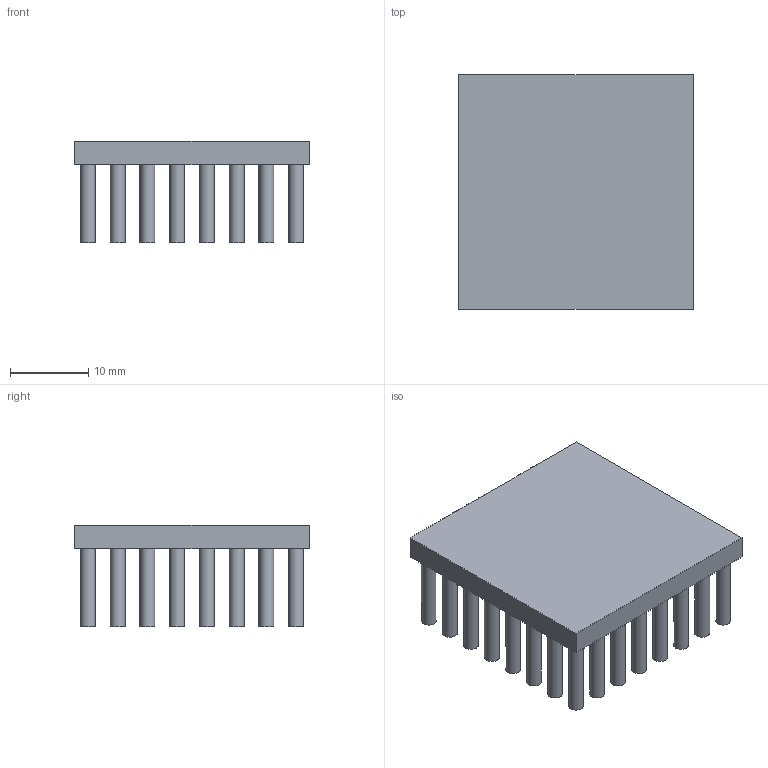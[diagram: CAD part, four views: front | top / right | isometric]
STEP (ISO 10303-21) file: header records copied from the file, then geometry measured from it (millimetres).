
FILE_DESCRIPTION(/* description */ (''),/* implementation_level */ '2;1');
FILE_NAME(/* name */ 'PB3030-B3-H13-P64.stp',/* time_stamp */ '2013-12-30T13:48:07+08:00',/* author */ (''),/* organization */ (''),/* preprocessor_version */ 'ST-DEVELOPER v14',/* originating_system */ 'SIEMENS PLM Software NX 8.0',/* authorisation */ '');
FILE_SCHEMA (('CONFIG_CONTROL_DESIGN'));
Length unit declared in the file: millimetre
Products named in the file (1): PB3030-P64
Bounding box: 30 x 30 x 13 mm (x, y, z)
Volume: 4514.6 mm3; surface area: 5980.2 mm2
Topology: 1 solids, 1 shells, 134 faces, 204 edges, 136 vertices
Faces by surface type: plane 70, cylinder 64
Full cylindrical faces by diameter (mm): 1.9 x64
Entity records: 2800 total; most frequent: DIRECTION 538, CARTESIAN_POINT 411, ORIENTED_EDGE 280, AXIS2_PLACEMENT_3D 263, EDGE_LOOP 262, FACE_BOUND 193, EDGE_CURVE 140, VERTEX_POINT 136
